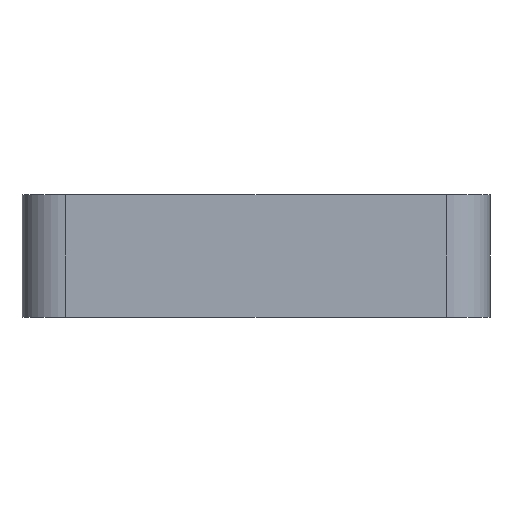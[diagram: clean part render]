
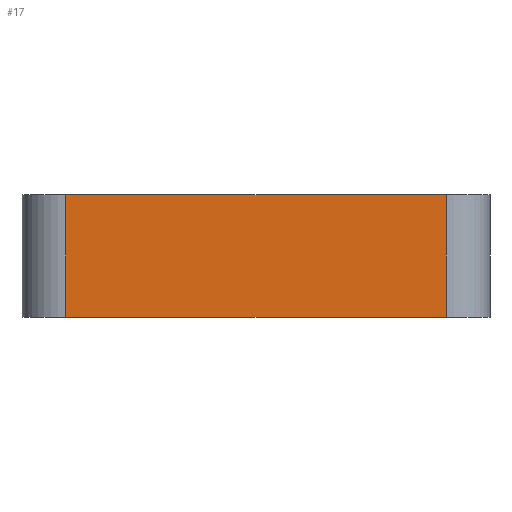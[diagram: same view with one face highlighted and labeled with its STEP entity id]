
A CAD part, front view. The second image highlights one B-rep face of the part: STEP entity #17.
In plain terms, the highlighted planar face has unit normal (0, -1, 0).
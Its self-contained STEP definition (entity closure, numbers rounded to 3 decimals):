
#17 = ADVANCED_FACE('',(#18),#32,.F.);
#18 = FACE_BOUND('',#19,.F.);
#19 = EDGE_LOOP('',(#20,#55,#83,#111));
#20 = ORIENTED_EDGE('',*,*,#21,.F.);
#21 = EDGE_CURVE('',#22,#24,#26,.T.);
#22 = VERTEX_POINT('',#23);
#23 = CARTESIAN_POINT('',(-130.,-215.,701.));
#24 = VERTEX_POINT('',#25);
#25 = CARTESIAN_POINT('',(130.,-215.,701.));
#26 = SURFACE_CURVE('',#27,(#31,#43),.PCURVE_S1.);
#27 = LINE('',#28,#29);
#28 = CARTESIAN_POINT('',(-160.,-215.,701.));
#29 = VECTOR('',#30,1.);
#30 = DIRECTION('',(1.,0.,0.));
#31 = PCURVE('',#32,#37);
#32 = PLANE('',#33);
#33 = AXIS2_PLACEMENT_3D('',#34,#35,#36);
#34 = CARTESIAN_POINT('',(-160.,-215.,701.));
#35 = DIRECTION('',(0.,1.,0.));
#36 = DIRECTION('',(1.,0.,0.));
#37 = DEFINITIONAL_REPRESENTATION('',(#38),#42);
#38 = LINE('',#39,#40);
#39 = CARTESIAN_POINT('',(0.,0.));
#40 = VECTOR('',#41,1.);
#41 = DIRECTION('',(1.,0.));
#42 = ( GEOMETRIC_REPRESENTATION_CONTEXT(2) 
PARAMETRIC_REPRESENTATION_CONTEXT() REPRESENTATION_CONTEXT('2D SPACE',''
  ) );
#43 = PCURVE('',#44,#49);
#44 = PLANE('',#45);
#45 = AXIS2_PLACEMENT_3D('',#46,#47,#48);
#46 = CARTESIAN_POINT('',(0.,0.,701.));
#47 = DIRECTION('',(0.,0.,1.));
#48 = DIRECTION('',(1.,0.,-0.));
#49 = DEFINITIONAL_REPRESENTATION('',(#50),#54);
#50 = LINE('',#51,#52);
#51 = CARTESIAN_POINT('',(-160.,-215.));
#52 = VECTOR('',#53,1.);
#53 = DIRECTION('',(1.,0.));
#54 = ( GEOMETRIC_REPRESENTATION_CONTEXT(2) 
PARAMETRIC_REPRESENTATION_CONTEXT() REPRESENTATION_CONTEXT('2D SPACE',''
  ) );
#55 = ORIENTED_EDGE('',*,*,#56,.T.);
#56 = EDGE_CURVE('',#22,#57,#59,.T.);
#57 = VERTEX_POINT('',#58);
#58 = CARTESIAN_POINT('',(-130.,-215.,785.));
#59 = SURFACE_CURVE('',#60,(#64,#71),.PCURVE_S1.);
#60 = LINE('',#61,#62);
#61 = CARTESIAN_POINT('',(-130.,-215.,701.));
#62 = VECTOR('',#63,1.);
#63 = DIRECTION('',(0.,0.,1.));
#64 = PCURVE('',#32,#65);
#65 = DEFINITIONAL_REPRESENTATION('',(#66),#70);
#66 = LINE('',#67,#68);
#67 = CARTESIAN_POINT('',(30.,0.));
#68 = VECTOR('',#69,1.);
#69 = DIRECTION('',(0.,-1.));
#70 = ( GEOMETRIC_REPRESENTATION_CONTEXT(2) 
PARAMETRIC_REPRESENTATION_CONTEXT() REPRESENTATION_CONTEXT('2D SPACE',''
  ) );
#71 = PCURVE('',#72,#77);
#72 = CYLINDRICAL_SURFACE('',#73,30.);
#73 = AXIS2_PLACEMENT_3D('',#74,#75,#76);
#74 = CARTESIAN_POINT('',(-130.,-185.,701.));
#75 = DIRECTION('',(0.,0.,1.));
#76 = DIRECTION('',(0.,-1.,0.));
#77 = DEFINITIONAL_REPRESENTATION('',(#78),#82);
#78 = LINE('',#79,#80);
#79 = CARTESIAN_POINT('',(-0.,0.));
#80 = VECTOR('',#81,1.);
#81 = DIRECTION('',(-0.,1.));
#82 = ( GEOMETRIC_REPRESENTATION_CONTEXT(2) 
PARAMETRIC_REPRESENTATION_CONTEXT() REPRESENTATION_CONTEXT('2D SPACE',''
  ) );
#83 = ORIENTED_EDGE('',*,*,#84,.T.);
#84 = EDGE_CURVE('',#57,#85,#87,.T.);
#85 = VERTEX_POINT('',#86);
#86 = CARTESIAN_POINT('',(130.,-215.,785.));
#87 = SURFACE_CURVE('',#88,(#92,#99),.PCURVE_S1.);
#88 = LINE('',#89,#90);
#89 = CARTESIAN_POINT('',(-160.,-215.,785.));
#90 = VECTOR('',#91,1.);
#91 = DIRECTION('',(1.,0.,0.));
#92 = PCURVE('',#32,#93);
#93 = DEFINITIONAL_REPRESENTATION('',(#94),#98);
#94 = LINE('',#95,#96);
#95 = CARTESIAN_POINT('',(0.,-84.));
#96 = VECTOR('',#97,1.);
#97 = DIRECTION('',(1.,0.));
#98 = ( GEOMETRIC_REPRESENTATION_CONTEXT(2) 
PARAMETRIC_REPRESENTATION_CONTEXT() REPRESENTATION_CONTEXT('2D SPACE',''
  ) );
#99 = PCURVE('',#100,#105);
#100 = PLANE('',#101);
#101 = AXIS2_PLACEMENT_3D('',#102,#103,#104);
#102 = CARTESIAN_POINT('',(0.,0.,785.));
#103 = DIRECTION('',(0.,0.,1.));
#104 = DIRECTION('',(1.,0.,-0.));
#105 = DEFINITIONAL_REPRESENTATION('',(#106),#110);
#106 = LINE('',#107,#108);
#107 = CARTESIAN_POINT('',(-160.,-215.));
#108 = VECTOR('',#109,1.);
#109 = DIRECTION('',(1.,0.));
#110 = ( GEOMETRIC_REPRESENTATION_CONTEXT(2) 
PARAMETRIC_REPRESENTATION_CONTEXT() REPRESENTATION_CONTEXT('2D SPACE',''
  ) );
#111 = ORIENTED_EDGE('',*,*,#112,.F.);
#112 = EDGE_CURVE('',#24,#85,#113,.T.);
#113 = SURFACE_CURVE('',#114,(#118,#125),.PCURVE_S1.);
#114 = LINE('',#115,#116);
#115 = CARTESIAN_POINT('',(130.,-215.,701.));
#116 = VECTOR('',#117,1.);
#117 = DIRECTION('',(0.,0.,1.));
#118 = PCURVE('',#32,#119);
#119 = DEFINITIONAL_REPRESENTATION('',(#120),#124);
#120 = LINE('',#121,#122);
#121 = CARTESIAN_POINT('',(290.,0.));
#122 = VECTOR('',#123,1.);
#123 = DIRECTION('',(0.,-1.));
#124 = ( GEOMETRIC_REPRESENTATION_CONTEXT(2) 
PARAMETRIC_REPRESENTATION_CONTEXT() REPRESENTATION_CONTEXT('2D SPACE',''
  ) );
#125 = PCURVE('',#126,#131);
#126 = CYLINDRICAL_SURFACE('',#127,30.);
#127 = AXIS2_PLACEMENT_3D('',#128,#129,#130);
#128 = CARTESIAN_POINT('',(130.,-185.,701.));
#129 = DIRECTION('',(0.,0.,1.));
#130 = DIRECTION('',(0.,-1.,0.));
#131 = DEFINITIONAL_REPRESENTATION('',(#132),#136);
#132 = LINE('',#133,#134);
#133 = CARTESIAN_POINT('',(0.,0.));
#134 = VECTOR('',#135,1.);
#135 = DIRECTION('',(0.,1.));
#136 = ( GEOMETRIC_REPRESENTATION_CONTEXT(2) 
PARAMETRIC_REPRESENTATION_CONTEXT() REPRESENTATION_CONTEXT('2D SPACE',''
  ) );
